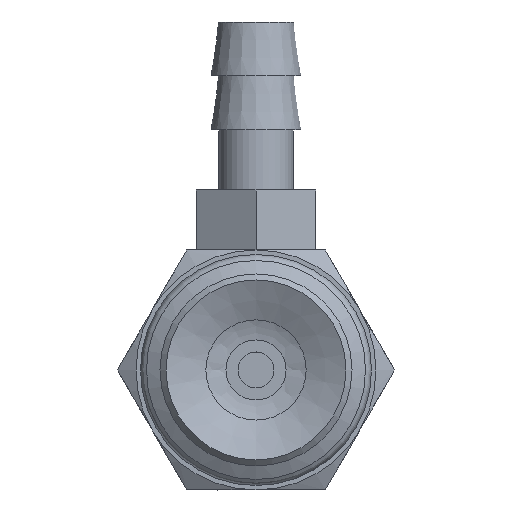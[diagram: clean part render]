
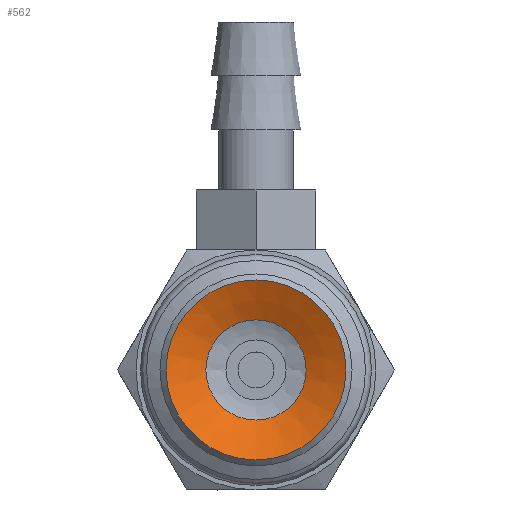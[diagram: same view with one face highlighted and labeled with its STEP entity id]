
A CAD part, front view. The second image highlights one B-rep face of the part: STEP entity #562.
In plain terms, the highlighted conical face has half-angle 64.998 degrees and reference radius 1.285 mm.
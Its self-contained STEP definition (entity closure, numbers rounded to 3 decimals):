
#562=ADVANCED_FACE('',(#846,#847),#848,.F.);
#846=FACE_BOUND('',#1195,.T.);
#847=FACE_OUTER_BOUND('',#1196,.T.);
#848=CONICAL_SURFACE('',#1197,1.285,1.134);
#1195=EDGE_LOOP('',(#1940));
#1196=EDGE_LOOP('',(#1941));
#1197=AXIS2_PLACEMENT_3D('',#1942,#1943,#1944);
#1940=ORIENTED_EDGE('',*,*,#2245,.T.);
#1941=ORIENTED_EDGE('',*,*,#2244,.T.);
#1942=CARTESIAN_POINT('',(0.0,0.8,0.0));
#1943=DIRECTION('',(-0.0,-1.0,0.));
#1944=DIRECTION('',(0.0,0.,-1.0));
#2244=EDGE_CURVE('',#2591,#2591,#2592,.T.);
#2245=EDGE_CURVE('',#2593,#2593,#2594,.T.);
#2591=VERTEX_POINT('',#3337);
#2592=CIRCLE('',#3338,3.);
#2593=VERTEX_POINT('',#3339);
#2594=CIRCLE('',#3340,1.67);
#3337=CARTESIAN_POINT('',(0.0,0.,-3.));
#3338=AXIS2_PLACEMENT_3D('',#3698,#3699,#3700);
#3339=CARTESIAN_POINT('',(0.0,0.62,-1.67));
#3340=AXIS2_PLACEMENT_3D('',#3701,#3702,#3703);
#3698=CARTESIAN_POINT('',(0.0,0.0,0.0));
#3699=DIRECTION('',(0.0,-1.0,0.));
#3700=DIRECTION('',(0.0,0.,-1.0));
#3701=CARTESIAN_POINT('',(0.0,0.62,0.0));
#3702=DIRECTION('',(0.0,1.0,0.));
#3703=DIRECTION('',(0.0,0.,-1.0));
